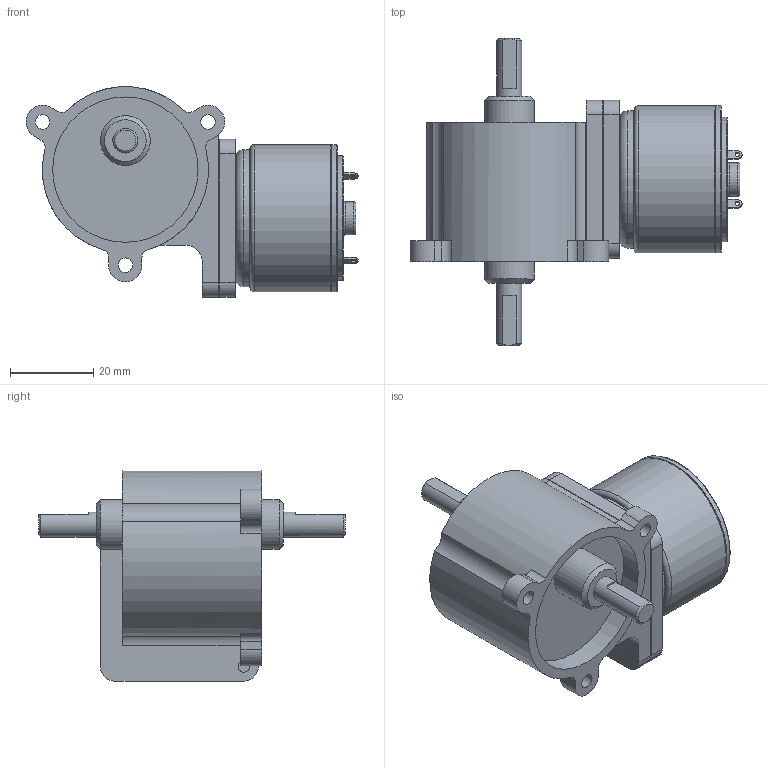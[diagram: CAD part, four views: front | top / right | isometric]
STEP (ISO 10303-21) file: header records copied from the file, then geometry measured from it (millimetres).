
FILE_DESCRIPTION((''),'2;1');
FILE_NAME('C:\Documents and Settings\SSEGAWA\デスクトップ\TP-3526E-KW.STP','2013-07-11T10:51:43',('SSEGAWA'),(''),'Autodesk Inventor 2010','Autodesk Inventor 2010','');
FILE_SCHEMA(('CONFIG_CONTROL_DESIGN'));
Length unit declared in the file: millimetre
Products named in the file (3): tp_3526e_kwr; kwr; tp_3526e
Assembly tree (2 placements, depth 2):
  tp_3526e_kwr
    kwr
    tp_3526e
Bounding box: 79.92 x 73.9 x 50.63 mm (x, y, z)
Volume: 77259.6 mm3; surface area: 16674.3 mm2
Topology: 2 solids, 2 shells, 135 faces, 317 edges, 209 vertices
Faces by surface type: plane 57, cylinder 47, bspline 21, cone 5, torus 5
Full cylindrical faces by diameter (mm): 1.1 x1, 2 x1, 2.4 x1, 5 x1, 6 x2, 8 x1, 10 x2, 12 x2, 30 x1, 33 x1, 35 x2, 35.4 x2
Entity records: 3977 total; most frequent: CARTESIAN_POINT 986, DIRECTION 633, ORIENTED_EDGE 522, EDGE_CURVE 261, AXIS2_PLACEMENT_3D 257, EDGE_LOOP 210, VERTEX_POINT 195, CIRCLE 138
